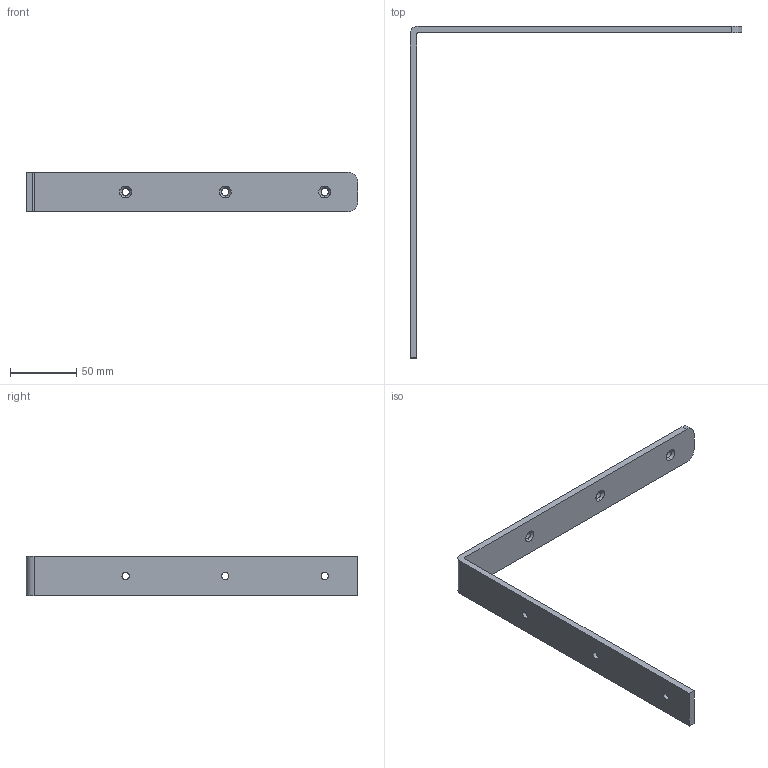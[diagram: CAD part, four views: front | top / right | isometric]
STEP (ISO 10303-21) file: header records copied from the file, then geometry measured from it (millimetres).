
FILE_DESCRIPTION (( 'STEP AP214' ), '1' );
FILE_NAME ('G324-250.STEP', '2024-08-21T08:34:44', ( '' ), ( '' ), 'SwSTEP 2.0', 'SolidWorks 2023', '' );
FILE_SCHEMA (( 'AUTOMOTIVE_DESIGN' ));
Length unit declared in the file: millimetre
Products named in the file (1): G324-250
Bounding box: 250 x 250 x 30 mm (x, y, z)
Volume: 72982.2 mm3; surface area: 34906.5 mm2
Topology: 1 solids, 1 shells, 36 faces, 102 edges, 68 vertices
Faces by surface type: cylinder 16, cone 12, plane 8
Entity records: 1249 total; most frequent: DIRECTION 232, CARTESIAN_POINT 207, ORIENTED_EDGE 204, EDGE_CURVE 102, AXIS2_PLACEMENT_3D 93, VERTEX_POINT 68, CIRCLE 56, EDGE_LOOP 48
